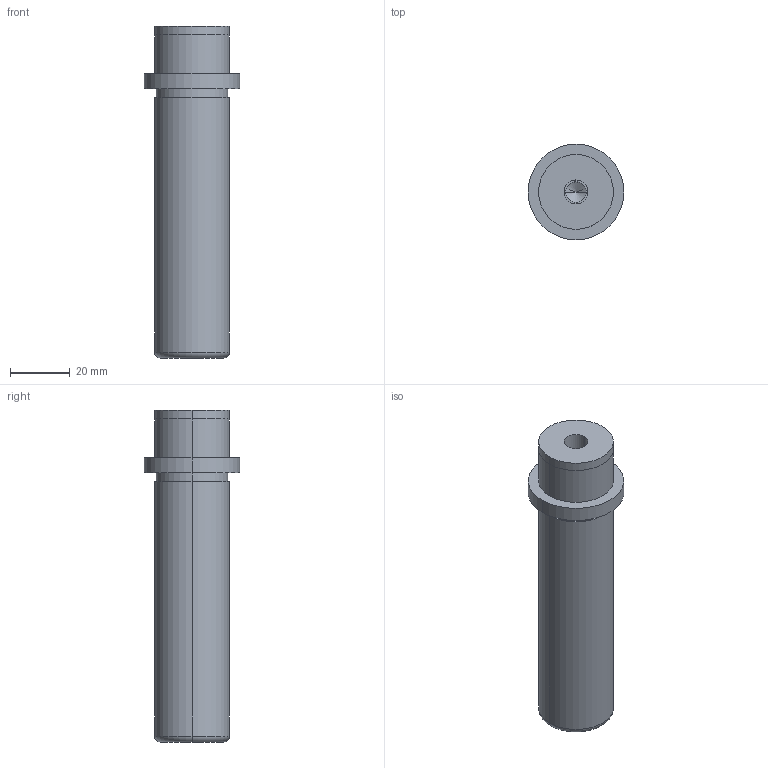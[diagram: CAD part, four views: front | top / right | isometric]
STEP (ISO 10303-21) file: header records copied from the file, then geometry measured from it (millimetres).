
FILE_DESCRIPTION(/* description */ (''),/* implementation_level */ '2;1');
FILE_NAME(/* name */ '3d_sgpw25-95_05239_r00.stp',/* time_stamp */ '2011-01-10T14:11:03+09:00',/* author */ ('MISUMI'),/* organization */ (''),/* preprocessor_version */ 'ST-DEVELOPER v11',/* originating_system */ 'UGS - NX 5.0',/* authorisation */ '');
FILE_SCHEMA (('CONFIG_CONTROL_DESIGN'));
Length unit declared in the file: millimetre
Products named in the file (1): 3d_sgpw25-95_05239_r00
Bounding box: 32 x 32 x 111 mm (x, y, z)
Volume: 53871.1 mm3; surface area: 11436.2 mm2
Topology: 1 solids, 1 shells, 31 faces, 64 edges, 38 vertices
Faces by surface type: cylinder 18, plane 7, cone 4, torus 2
Entity records: 890 total; most frequent: DIRECTION 162, CARTESIAN_POINT 130, ORIENTED_EDGE 120, AXIS2_PLACEMENT_3D 70, EDGE_CURVE 60, EDGE_LOOP 38, CIRCLE 38, VERTEX_POINT 38
